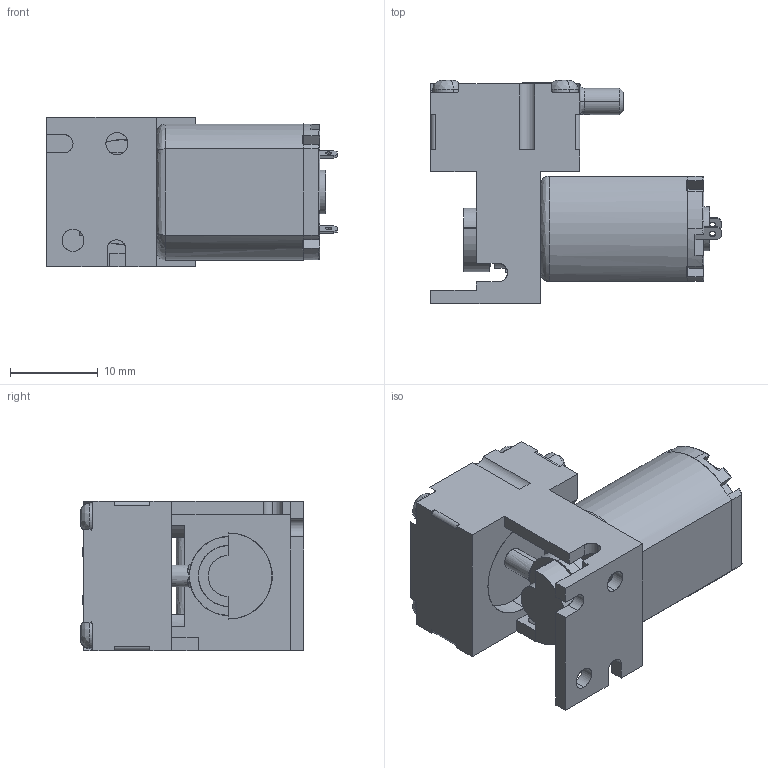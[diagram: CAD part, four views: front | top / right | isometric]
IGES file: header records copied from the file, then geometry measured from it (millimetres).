
Start section: SolidWorks IGES file using analytic representation for surfaces
Global section: file name: Q:\2016\03 Nautilus\41 6410 Shell Creation\Fertige Hüllen\01 an Marketing übergeben\20020215\20020215-18.IGS; native system: SolidWorks 2018; preprocessor: SolidWorks 2018; author: hxs2830; date: 190724.101137; units: millimetre
Bounding box: 33.1 x 25.4 x 17 mm (x, y, z)
Surface area: 3954.6 mm2 (no closed solid volume)
Topology: 0 solids, 0 shells, 282 faces, 2909 edges, 2899 vertices
Faces by surface type: bspline 190, revolution 92
